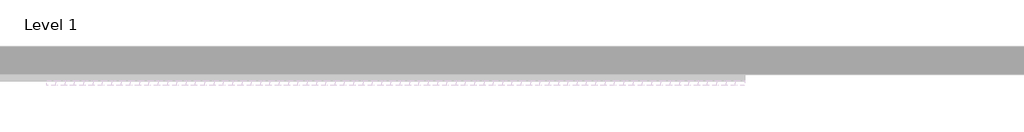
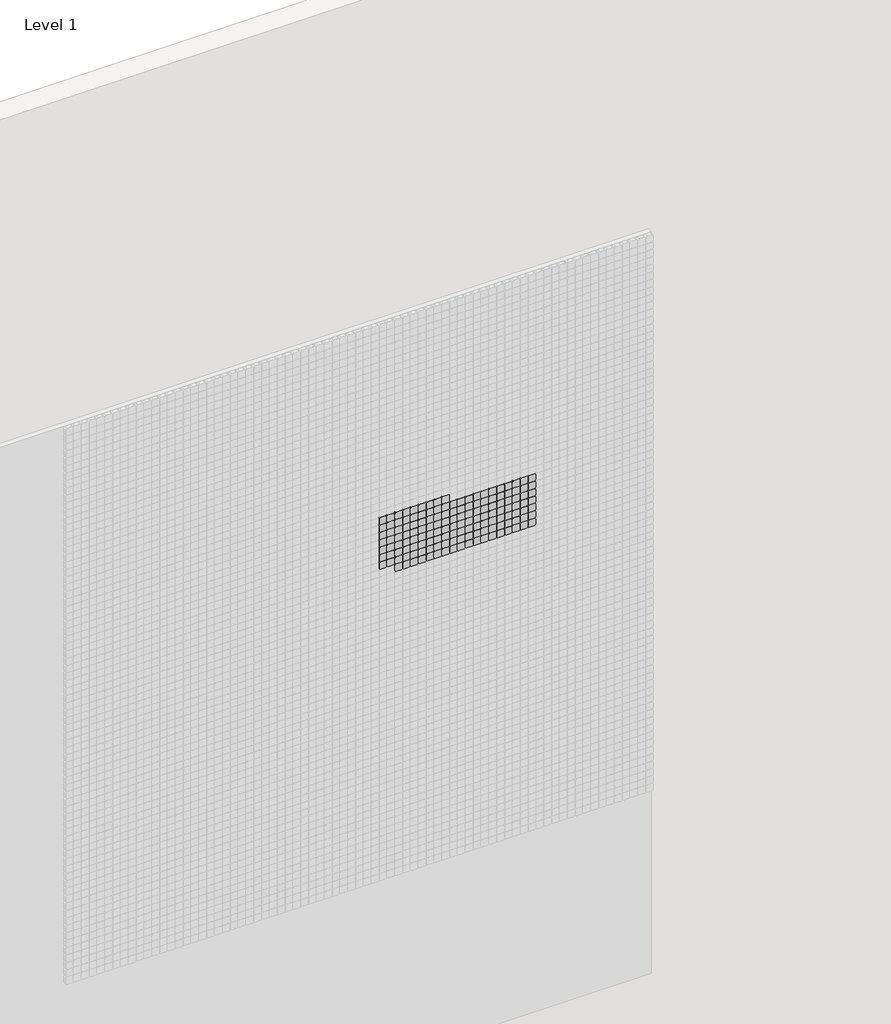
# One storey, part 52 of 71: 147 proxies.
"""IFC4 building model written with IfcOpenShell, lengths in millimetres."""

from ifc_helpers import new_model, si_unit, origin, place, context, project, spatial, transform, mapped, element, save
from components import generic_models_afde289c

model = new_model("IFC4")

# Units and contexts
model_context = context("Model", 3, world=origin())
ifc_project = project(units=[si_unit("LENGTHUNIT", "METRE", prefix="MILLI")], contexts=[model_context])

# Site, building, storey
site = spatial("IfcSite", under=ifc_project)
building = spatial("IfcBuilding", under=site)
storey = spatial("IfcBuildingStorey", under=building, Name="Level 1", Elevation=0.0)

# Proxies
placement = place(None, origin())
generic_models_shape = generic_models_afde289c(model_context)
element("IfcBuildingElementProxy", 1, Name="Pixel_M : Pixel_M", ObjectType="Pixel_M : Pixel_M", at=placement, inside=storey, context=model_context, shape_type="MappedRepresentation", body=[
    mapped(generic_models_shape, transform((8412.4280941, -75.0, 4666.3566215), x_axis=(1.0, 0.0, 0.0), y_axis=(0.0, 0.0, 1.0), z_axis=(0.0, -1.0, 0.0))),
])
element("IfcBuildingElementProxy", 2, Name="Pixel_M : Pixel_M", ObjectType="Pixel_M : Pixel_M", at=placement, inside=storey, context=model_context, shape_type="MappedRepresentation", body=[
    mapped(generic_models_shape, transform((8362.4280941, -75.0, 4666.3566215), x_axis=(1.0, 0.0, 0.0), y_axis=(0.0, 0.0, 1.0), z_axis=(0.0, -1.0, 0.0))),
])
element("IfcBuildingElementProxy", 3, Name="Pixel_M : Pixel_M", ObjectType="Pixel_M : Pixel_M", at=placement, inside=storey, context=model_context, shape_type="MappedRepresentation", body=[
    mapped(generic_models_shape, transform((8312.4280941, -75.0, 4666.3566215), x_axis=(1.0, 0.0, 0.0), y_axis=(0.0, 0.0, 1.0), z_axis=(0.0, -1.0, 0.0))),
])
element("IfcBuildingElementProxy", 4, Name="Pixel_M : Pixel_M", ObjectType="Pixel_M : Pixel_M", at=placement, inside=storey, context=model_context, shape_type="MappedRepresentation", body=[
    mapped(generic_models_shape, transform((8262.4280941, -75.0, 4666.3566215), x_axis=(1.0, 0.0, 0.0), y_axis=(0.0, 0.0, 1.0), z_axis=(0.0, -1.0, 0.0))),
])
element("IfcBuildingElementProxy", 5, Name="Pixel_M : Pixel_M", ObjectType="Pixel_M : Pixel_M", at=placement, inside=storey, context=model_context, shape_type="MappedRepresentation", body=[
    mapped(generic_models_shape, transform((8212.4280941, -75.0, 4666.3566215), x_axis=(1.0, 0.0, 0.0), y_axis=(0.0, 0.0, 1.0), z_axis=(0.0, -1.0, 0.0))),
])
element("IfcBuildingElementProxy", 6, Name="Pixel_M : Pixel_M", ObjectType="Pixel_M : Pixel_M", at=placement, inside=storey, context=model_context, shape_type="MappedRepresentation", body=[
    mapped(generic_models_shape, transform((8162.4280941, -75.0, 4666.3566215), x_axis=(1.0, 0.0, 0.0), y_axis=(0.0, 0.0, 1.0), z_axis=(0.0, -1.0, 0.0))),
])
element("IfcBuildingElementProxy", 7, Name="Pixel_M : Pixel_M", ObjectType="Pixel_M : Pixel_M", at=placement, inside=storey, context=model_context, shape_type="MappedRepresentation", body=[
    mapped(generic_models_shape, transform((8112.4280941, -75.0, 4666.3566215), x_axis=(1.0, 0.0, 0.0), y_axis=(0.0, 0.0, 1.0), z_axis=(0.0, -1.0, 0.0))),
])
element("IfcBuildingElementProxy", 8, Name="Pixel_M : Pixel_M", ObjectType="Pixel_M : Pixel_M", at=placement, inside=storey, context=model_context, shape_type="MappedRepresentation", body=[
    mapped(generic_models_shape, transform((8062.4280941, -75.0, 4666.3566215), x_axis=(1.0, 0.0, 0.0), y_axis=(0.0, 0.0, 1.0), z_axis=(0.0, -1.0, 0.0))),
])
element("IfcBuildingElementProxy", 9, Name="Pixel_M : Pixel_M", ObjectType="Pixel_M : Pixel_M", at=placement, inside=storey, context=model_context, shape_type="MappedRepresentation", body=[
    mapped(generic_models_shape, transform((8012.4280941, -75.0, 4666.3566215), x_axis=(1.0, 0.0, 0.0), y_axis=(0.0, 0.0, 1.0), z_axis=(0.0, -1.0, 0.0))),
])
element("IfcBuildingElementProxy", 10, Name="Pixel_M : Pixel_M", ObjectType="Pixel_M : Pixel_M", at=placement, inside=storey, context=model_context, shape_type="MappedRepresentation", body=[
    mapped(generic_models_shape, transform((8962.4280941, -75.0, 4616.3566215), x_axis=(1.0, 0.0, 0.0), y_axis=(0.0, 0.0, 1.0), z_axis=(0.0, -1.0, 0.0))),
])
element("IfcBuildingElementProxy", 11, Name="Pixel_M : Pixel_M", ObjectType="Pixel_M : Pixel_M", at=placement, inside=storey, context=model_context, shape_type="MappedRepresentation", body=[
    mapped(generic_models_shape, transform((8912.4280941, -75.0, 4616.3566215), x_axis=(1.0, 0.0, 0.0), y_axis=(0.0, 0.0, 1.0), z_axis=(0.0, -1.0, 0.0))),
])
element("IfcBuildingElementProxy", 12, Name="Pixel_M : Pixel_M", ObjectType="Pixel_M : Pixel_M", at=placement, inside=storey, context=model_context, shape_type="MappedRepresentation", body=[
    mapped(generic_models_shape, transform((8862.4280941, -75.0, 4616.3566215), x_axis=(1.0, 0.0, 0.0), y_axis=(0.0, 0.0, 1.0), z_axis=(0.0, -1.0, 0.0))),
])
element("IfcBuildingElementProxy", 13, Name="Pixel_M : Pixel_M", ObjectType="Pixel_M : Pixel_M", at=placement, inside=storey, context=model_context, shape_type="MappedRepresentation", body=[
    mapped(generic_models_shape, transform((8812.4280941, -75.0, 4616.3566215), x_axis=(1.0, 0.0, 0.0), y_axis=(0.0, 0.0, 1.0), z_axis=(0.0, -1.0, 0.0))),
])
element("IfcBuildingElementProxy", 14, Name="Pixel_M : Pixel_M", ObjectType="Pixel_M : Pixel_M", at=placement, inside=storey, context=model_context, shape_type="MappedRepresentation", body=[
    mapped(generic_models_shape, transform((8762.4280941, -75.0, 4616.3566215), x_axis=(1.0, 0.0, 0.0), y_axis=(0.0, 0.0, 1.0), z_axis=(0.0, -1.0, 0.0))),
])
element("IfcBuildingElementProxy", 15, Name="Pixel_M : Pixel_M", ObjectType="Pixel_M : Pixel_M", at=placement, inside=storey, context=model_context, shape_type="MappedRepresentation", body=[
    mapped(generic_models_shape, transform((8712.4280941, -75.0, 4616.3566215), x_axis=(1.0, 0.0, 0.0), y_axis=(0.0, 0.0, 1.0), z_axis=(0.0, -1.0, 0.0))),
])
element("IfcBuildingElementProxy", 16, Name="Pixel_M : Pixel_M", ObjectType="Pixel_M : Pixel_M", at=placement, inside=storey, context=model_context, shape_type="MappedRepresentation", body=[
    mapped(generic_models_shape, transform((8662.4280941, -75.0, 4616.3566215), x_axis=(1.0, 0.0, 0.0), y_axis=(0.0, 0.0, 1.0), z_axis=(0.0, -1.0, 0.0))),
])
element("IfcBuildingElementProxy", 17, Name="Pixel_M : Pixel_M", ObjectType="Pixel_M : Pixel_M", at=placement, inside=storey, context=model_context, shape_type="MappedRepresentation", body=[
    mapped(generic_models_shape, transform((8612.4280941, -75.0, 4616.3566215), x_axis=(1.0, 0.0, 0.0), y_axis=(0.0, 0.0, 1.0), z_axis=(0.0, -1.0, 0.0))),
])
element("IfcBuildingElementProxy", 18, Name="Pixel_M : Pixel_M", ObjectType="Pixel_M : Pixel_M", at=placement, inside=storey, context=model_context, shape_type="MappedRepresentation", body=[
    mapped(generic_models_shape, transform((8562.4280941, -75.0, 4616.3566215), x_axis=(1.0, 0.0, 0.0), y_axis=(0.0, 0.0, 1.0), z_axis=(0.0, -1.0, 0.0))),
])
element("IfcBuildingElementProxy", 19, Name="Pixel_M : Pixel_M", ObjectType="Pixel_M : Pixel_M", at=placement, inside=storey, context=model_context, shape_type="MappedRepresentation", body=[
    mapped(generic_models_shape, transform((8512.4280941, -75.0, 4616.3566215), x_axis=(1.0, 0.0, 0.0), y_axis=(0.0, 0.0, 1.0), z_axis=(0.0, -1.0, 0.0))),
])
element("IfcBuildingElementProxy", 20, Name="Pixel_M : Pixel_M", ObjectType="Pixel_M : Pixel_M", at=placement, inside=storey, context=model_context, shape_type="MappedRepresentation", body=[
    mapped(generic_models_shape, transform((8462.4280941, -75.0, 4616.3566215), x_axis=(1.0, 0.0, 0.0), y_axis=(0.0, 0.0, 1.0), z_axis=(0.0, -1.0, 0.0))),
])
element("IfcBuildingElementProxy", 21, Name="Pixel_M : Pixel_M", ObjectType="Pixel_M : Pixel_M", at=placement, inside=storey, context=model_context, shape_type="MappedRepresentation", body=[
    mapped(generic_models_shape, transform((8412.4280941, -75.0, 4616.3566215), x_axis=(1.0, 0.0, 0.0), y_axis=(0.0, 0.0, 1.0), z_axis=(0.0, -1.0, 0.0))),
])
element("IfcBuildingElementProxy", 22, Name="Pixel_M : Pixel_M", ObjectType="Pixel_M : Pixel_M", at=placement, inside=storey, context=model_context, shape_type="MappedRepresentation", body=[
    mapped(generic_models_shape, transform((8362.4280941, -75.0, 4616.3566215), x_axis=(1.0, 0.0, 0.0), y_axis=(0.0, 0.0, 1.0), z_axis=(0.0, -1.0, 0.0))),
])
element("IfcBuildingElementProxy", 23, Name="Pixel_M : Pixel_M", ObjectType="Pixel_M : Pixel_M", at=placement, inside=storey, context=model_context, shape_type="MappedRepresentation", body=[
    mapped(generic_models_shape, transform((8312.4280941, -75.0, 4616.3566215), x_axis=(1.0, 0.0, 0.0), y_axis=(0.0, 0.0, 1.0), z_axis=(0.0, -1.0, 0.0))),
])
element("IfcBuildingElementProxy", 24, Name="Pixel_M : Pixel_M", ObjectType="Pixel_M : Pixel_M", at=placement, inside=storey, context=model_context, shape_type="MappedRepresentation", body=[
    mapped(generic_models_shape, transform((8262.4280941, -75.0, 4616.3566215), x_axis=(1.0, 0.0, 0.0), y_axis=(0.0, 0.0, 1.0), z_axis=(0.0, -1.0, 0.0))),
])
element("IfcBuildingElementProxy", 25, Name="Pixel_M : Pixel_M", ObjectType="Pixel_M : Pixel_M", at=placement, inside=storey, context=model_context, shape_type="MappedRepresentation", body=[
    mapped(generic_models_shape, transform((8212.4280941, -75.0, 4616.3566215), x_axis=(1.0, 0.0, 0.0), y_axis=(0.0, 0.0, 1.0), z_axis=(0.0, -1.0, 0.0))),
])
element("IfcBuildingElementProxy", 26, Name="Pixel_M : Pixel_M", ObjectType="Pixel_M : Pixel_M", at=placement, inside=storey, context=model_context, shape_type="MappedRepresentation", body=[
    mapped(generic_models_shape, transform((8162.4280941, -75.0, 4616.3566215), x_axis=(1.0, 0.0, 0.0), y_axis=(0.0, 0.0, 1.0), z_axis=(0.0, -1.0, 0.0))),
])
element("IfcBuildingElementProxy", 27, Name="Pixel_M : Pixel_M", ObjectType="Pixel_M : Pixel_M", at=placement, inside=storey, context=model_context, shape_type="MappedRepresentation", body=[
    mapped(generic_models_shape, transform((8112.4280941, -75.0, 4616.3566215), x_axis=(1.0, 0.0, 0.0), y_axis=(0.0, 0.0, 1.0), z_axis=(0.0, -1.0, 0.0))),
])
element("IfcBuildingElementProxy", 28, Name="Pixel_M : Pixel_M", ObjectType="Pixel_M : Pixel_M", at=placement, inside=storey, context=model_context, shape_type="MappedRepresentation", body=[
    mapped(generic_models_shape, transform((8062.4280941, -75.0, 4616.3566215), x_axis=(1.0, 0.0, 0.0), y_axis=(0.0, 0.0, 1.0), z_axis=(0.0, -1.0, 0.0))),
])
element("IfcBuildingElementProxy", 29, Name="Pixel_M : Pixel_M", ObjectType="Pixel_M : Pixel_M", at=placement, inside=storey, context=model_context, shape_type="MappedRepresentation", body=[
    mapped(generic_models_shape, transform((8012.4280941, -75.0, 4616.3566215), x_axis=(1.0, 0.0, 0.0), y_axis=(0.0, 0.0, 1.0), z_axis=(0.0, -1.0, 0.0))),
])
element("IfcBuildingElementProxy", 30, Name="Pixel_M : Pixel_M", ObjectType="Pixel_M : Pixel_M", at=placement, inside=storey, context=model_context, shape_type="MappedRepresentation", body=[
    mapped(generic_models_shape, transform((8962.4280941, -75.0, 4566.3566215), x_axis=(1.0, 0.0, 0.0), y_axis=(0.0, 0.0, 1.0), z_axis=(0.0, -1.0, 0.0))),
])
element("IfcBuildingElementProxy", 31, Name="Pixel_M : Pixel_M", ObjectType="Pixel_M : Pixel_M", at=placement, inside=storey, context=model_context, shape_type="MappedRepresentation", body=[
    mapped(generic_models_shape, transform((8912.4280941, -75.0, 4566.3566215), x_axis=(1.0, 0.0, 0.0), y_axis=(0.0, 0.0, 1.0), z_axis=(0.0, -1.0, 0.0))),
])
element("IfcBuildingElementProxy", 32, Name="Pixel_M : Pixel_M", ObjectType="Pixel_M : Pixel_M", at=placement, inside=storey, context=model_context, shape_type="MappedRepresentation", body=[
    mapped(generic_models_shape, transform((8862.4280941, -75.0, 4566.3566215), x_axis=(1.0, 0.0, 0.0), y_axis=(0.0, 0.0, 1.0), z_axis=(0.0, -1.0, 0.0))),
])
element("IfcBuildingElementProxy", 33, Name="Pixel_M : Pixel_M", ObjectType="Pixel_M : Pixel_M", at=placement, inside=storey, context=model_context, shape_type="MappedRepresentation", body=[
    mapped(generic_models_shape, transform((8812.4280941, -75.0, 4566.3566215), x_axis=(1.0, 0.0, 0.0), y_axis=(0.0, 0.0, 1.0), z_axis=(0.0, -1.0, 0.0))),
])
element("IfcBuildingElementProxy", 34, Name="Pixel_M : Pixel_M", ObjectType="Pixel_M : Pixel_M", at=placement, inside=storey, context=model_context, shape_type="MappedRepresentation", body=[
    mapped(generic_models_shape, transform((8762.4280941, -75.0, 4566.3566215), x_axis=(1.0, 0.0, 0.0), y_axis=(0.0, 0.0, 1.0), z_axis=(0.0, -1.0, 0.0))),
])
element("IfcBuildingElementProxy", 35, Name="Pixel_M : Pixel_M", ObjectType="Pixel_M : Pixel_M", at=placement, inside=storey, context=model_context, shape_type="MappedRepresentation", body=[
    mapped(generic_models_shape, transform((8712.4280941, -75.0, 4566.3566215), x_axis=(1.0, 0.0, 0.0), y_axis=(0.0, 0.0, 1.0), z_axis=(0.0, -1.0, 0.0))),
])
element("IfcBuildingElementProxy", 36, Name="Pixel_M : Pixel_M", ObjectType="Pixel_M : Pixel_M", at=placement, inside=storey, context=model_context, shape_type="MappedRepresentation", body=[
    mapped(generic_models_shape, transform((8662.4280941, -75.0, 4566.3566215), x_axis=(1.0, 0.0, 0.0), y_axis=(0.0, 0.0, 1.0), z_axis=(0.0, -1.0, 0.0))),
])
element("IfcBuildingElementProxy", 37, Name="Pixel_M : Pixel_M", ObjectType="Pixel_M : Pixel_M", at=placement, inside=storey, context=model_context, shape_type="MappedRepresentation", body=[
    mapped(generic_models_shape, transform((8612.4280941, -75.0, 4566.3566215), x_axis=(1.0, 0.0, 0.0), y_axis=(0.0, 0.0, 1.0), z_axis=(0.0, -1.0, 0.0))),
])
element("IfcBuildingElementProxy", 38, Name="Pixel_M : Pixel_M", ObjectType="Pixel_M : Pixel_M", at=placement, inside=storey, context=model_context, shape_type="MappedRepresentation", body=[
    mapped(generic_models_shape, transform((8562.4280941, -75.0, 4566.3566215), x_axis=(1.0, 0.0, 0.0), y_axis=(0.0, 0.0, 1.0), z_axis=(0.0, -1.0, 0.0))),
])
element("IfcBuildingElementProxy", 39, Name="Pixel_M : Pixel_M", ObjectType="Pixel_M : Pixel_M", at=placement, inside=storey, context=model_context, shape_type="MappedRepresentation", body=[
    mapped(generic_models_shape, transform((8512.4280941, -75.0, 4566.3566215), x_axis=(1.0, 0.0, 0.0), y_axis=(0.0, 0.0, 1.0), z_axis=(0.0, -1.0, 0.0))),
])
element("IfcBuildingElementProxy", 40, Name="Pixel_M : Pixel_M", ObjectType="Pixel_M : Pixel_M", at=placement, inside=storey, context=model_context, shape_type="MappedRepresentation", body=[
    mapped(generic_models_shape, transform((8462.4280941, -75.0, 4566.3566215), x_axis=(1.0, 0.0, 0.0), y_axis=(0.0, 0.0, 1.0), z_axis=(0.0, -1.0, 0.0))),
])
element("IfcBuildingElementProxy", 41, Name="Pixel_M : Pixel_M", ObjectType="Pixel_M : Pixel_M", at=placement, inside=storey, context=model_context, shape_type="MappedRepresentation", body=[
    mapped(generic_models_shape, transform((8412.4280941, -75.0, 4566.3566215), x_axis=(1.0, 0.0, 0.0), y_axis=(0.0, 0.0, 1.0), z_axis=(0.0, -1.0, 0.0))),
])
element("IfcBuildingElementProxy", 42, Name="Pixel_M : Pixel_M", ObjectType="Pixel_M : Pixel_M", at=placement, inside=storey, context=model_context, shape_type="MappedRepresentation", body=[
    mapped(generic_models_shape, transform((8362.4280941, -75.0, 4566.3566215), x_axis=(1.0, 0.0, 0.0), y_axis=(0.0, 0.0, 1.0), z_axis=(0.0, -1.0, 0.0))),
])
element("IfcBuildingElementProxy", 43, Name="Pixel_M : Pixel_M", ObjectType="Pixel_M : Pixel_M", at=placement, inside=storey, context=model_context, shape_type="MappedRepresentation", body=[
    mapped(generic_models_shape, transform((8312.4280941, -75.0, 4566.3566215), x_axis=(1.0, 0.0, 0.0), y_axis=(0.0, 0.0, 1.0), z_axis=(0.0, -1.0, 0.0))),
])
element("IfcBuildingElementProxy", 44, Name="Pixel_M : Pixel_M", ObjectType="Pixel_M : Pixel_M", at=placement, inside=storey, context=model_context, shape_type="MappedRepresentation", body=[
    mapped(generic_models_shape, transform((8262.4280941, -75.0, 4566.3566215), x_axis=(1.0, 0.0, 0.0), y_axis=(0.0, 0.0, 1.0), z_axis=(0.0, -1.0, 0.0))),
])
element("IfcBuildingElementProxy", 45, Name="Pixel_M : Pixel_M", ObjectType="Pixel_M : Pixel_M", at=placement, inside=storey, context=model_context, shape_type="MappedRepresentation", body=[
    mapped(generic_models_shape, transform((8212.4280941, -75.0, 4566.3566215), x_axis=(1.0, 0.0, 0.0), y_axis=(0.0, 0.0, 1.0), z_axis=(0.0, -1.0, 0.0))),
])
element("IfcBuildingElementProxy", 46, Name="Pixel_M : Pixel_M", ObjectType="Pixel_M : Pixel_M", at=placement, inside=storey, context=model_context, shape_type="MappedRepresentation", body=[
    mapped(generic_models_shape, transform((8162.4280941, -75.0, 4566.3566215), x_axis=(1.0, 0.0, 0.0), y_axis=(0.0, 0.0, 1.0), z_axis=(0.0, -1.0, 0.0))),
])
element("IfcBuildingElementProxy", 47, Name="Pixel_M : Pixel_M", ObjectType="Pixel_M : Pixel_M", at=placement, inside=storey, context=model_context, shape_type="MappedRepresentation", body=[
    mapped(generic_models_shape, transform((8112.4280941, -75.0, 4566.3566215), x_axis=(1.0, 0.0, 0.0), y_axis=(0.0, 0.0, 1.0), z_axis=(0.0, -1.0, 0.0))),
])
element("IfcBuildingElementProxy", 48, Name="Pixel_M : Pixel_M", ObjectType="Pixel_M : Pixel_M", at=placement, inside=storey, context=model_context, shape_type="MappedRepresentation", body=[
    mapped(generic_models_shape, transform((8062.4280941, -75.0, 4566.3566215), x_axis=(1.0, 0.0, 0.0), y_axis=(0.0, 0.0, 1.0), z_axis=(0.0, -1.0, 0.0))),
])
element("IfcBuildingElementProxy", 49, Name="Pixel_M : Pixel_M", ObjectType="Pixel_M : Pixel_M", at=placement, inside=storey, context=model_context, shape_type="MappedRepresentation", body=[
    mapped(generic_models_shape, transform((8012.4280941, -75.0, 4566.3566215), x_axis=(1.0, 0.0, 0.0), y_axis=(0.0, 0.0, 1.0), z_axis=(0.0, -1.0, 0.0))),
])
element("IfcBuildingElementProxy", 50, Name="Pixel_M : Pixel_M", ObjectType="Pixel_M : Pixel_M", at=placement, inside=storey, context=model_context, shape_type="MappedRepresentation", body=[
    mapped(generic_models_shape, transform((8962.4280941, -75.0, 4516.3566215), x_axis=(1.0, 0.0, 0.0), y_axis=(0.0, 0.0, 1.0), z_axis=(0.0, -1.0, 0.0))),
])
element("IfcBuildingElementProxy", 51, Name="Pixel_M : Pixel_M", ObjectType="Pixel_M : Pixel_M", at=placement, inside=storey, context=model_context, shape_type="MappedRepresentation", body=[
    mapped(generic_models_shape, transform((8912.4280941, -75.0, 4516.3566215), x_axis=(1.0, 0.0, 0.0), y_axis=(0.0, 0.0, 1.0), z_axis=(0.0, -1.0, 0.0))),
])
element("IfcBuildingElementProxy", 52, Name="Pixel_M : Pixel_M", ObjectType="Pixel_M : Pixel_M", at=placement, inside=storey, context=model_context, shape_type="MappedRepresentation", body=[
    mapped(generic_models_shape, transform((8862.4280941, -75.0, 4516.3566215), x_axis=(1.0, 0.0, 0.0), y_axis=(0.0, 0.0, 1.0), z_axis=(0.0, -1.0, 0.0))),
])
element("IfcBuildingElementProxy", 53, Name="Pixel_M : Pixel_M", ObjectType="Pixel_M : Pixel_M", at=placement, inside=storey, context=model_context, shape_type="MappedRepresentation", body=[
    mapped(generic_models_shape, transform((8812.4280941, -75.0, 4516.3566215), x_axis=(1.0, 0.0, 0.0), y_axis=(0.0, 0.0, 1.0), z_axis=(0.0, -1.0, 0.0))),
])
element("IfcBuildingElementProxy", 54, Name="Pixel_M : Pixel_M", ObjectType="Pixel_M : Pixel_M", at=placement, inside=storey, context=model_context, shape_type="MappedRepresentation", body=[
    mapped(generic_models_shape, transform((8762.4280941, -75.0, 4516.3566215), x_axis=(1.0, 0.0, 0.0), y_axis=(0.0, 0.0, 1.0), z_axis=(0.0, -1.0, 0.0))),
])
element("IfcBuildingElementProxy", 55, Name="Pixel_M : Pixel_M", ObjectType="Pixel_M : Pixel_M", at=placement, inside=storey, context=model_context, shape_type="MappedRepresentation", body=[
    mapped(generic_models_shape, transform((8712.4280941, -75.0, 4516.3566215), x_axis=(1.0, 0.0, 0.0), y_axis=(0.0, 0.0, 1.0), z_axis=(0.0, -1.0, 0.0))),
])
element("IfcBuildingElementProxy", 56, Name="Pixel_M : Pixel_M", ObjectType="Pixel_M : Pixel_M", at=placement, inside=storey, context=model_context, shape_type="MappedRepresentation", body=[
    mapped(generic_models_shape, transform((8662.4280941, -75.0, 4516.3566215), x_axis=(1.0, 0.0, 0.0), y_axis=(0.0, 0.0, 1.0), z_axis=(0.0, -1.0, 0.0))),
])
element("IfcBuildingElementProxy", 57, Name="Pixel_M : Pixel_M", ObjectType="Pixel_M : Pixel_M", at=placement, inside=storey, context=model_context, shape_type="MappedRepresentation", body=[
    mapped(generic_models_shape, transform((8612.4280941, -75.0, 4516.3566215), x_axis=(1.0, 0.0, 0.0), y_axis=(0.0, 0.0, 1.0), z_axis=(0.0, -1.0, 0.0))),
])
element("IfcBuildingElementProxy", 58, Name="Pixel_M : Pixel_M", ObjectType="Pixel_M : Pixel_M", at=placement, inside=storey, context=model_context, shape_type="MappedRepresentation", body=[
    mapped(generic_models_shape, transform((8562.4280941, -75.0, 4516.3566215), x_axis=(1.0, 0.0, 0.0), y_axis=(0.0, 0.0, 1.0), z_axis=(0.0, -1.0, 0.0))),
])
element("IfcBuildingElementProxy", 59, Name="Pixel_M : Pixel_M", ObjectType="Pixel_M : Pixel_M", at=placement, inside=storey, context=model_context, shape_type="MappedRepresentation", body=[
    mapped(generic_models_shape, transform((8512.4280941, -75.0, 4516.3566215), x_axis=(1.0, 0.0, 0.0), y_axis=(0.0, 0.0, 1.0), z_axis=(0.0, -1.0, 0.0))),
])
element("IfcBuildingElementProxy", 60, Name="Pixel_M : Pixel_M", ObjectType="Pixel_M : Pixel_M", at=placement, inside=storey, context=model_context, shape_type="MappedRepresentation", body=[
    mapped(generic_models_shape, transform((8462.4280941, -75.0, 4516.3566215), x_axis=(1.0, 0.0, 0.0), y_axis=(0.0, 0.0, 1.0), z_axis=(0.0, -1.0, 0.0))),
])
element("IfcBuildingElementProxy", 61, Name="Pixel_M : Pixel_M", ObjectType="Pixel_M : Pixel_M", at=placement, inside=storey, context=model_context, shape_type="MappedRepresentation", body=[
    mapped(generic_models_shape, transform((8412.4280941, -75.0, 4516.3566215), x_axis=(1.0, 0.0, 0.0), y_axis=(0.0, 0.0, 1.0), z_axis=(0.0, -1.0, 0.0))),
])
element("IfcBuildingElementProxy", 62, Name="Pixel_M : Pixel_M", ObjectType="Pixel_M : Pixel_M", at=placement, inside=storey, context=model_context, shape_type="MappedRepresentation", body=[
    mapped(generic_models_shape, transform((8362.4280941, -75.0, 4516.3566215), x_axis=(1.0, 0.0, 0.0), y_axis=(0.0, 0.0, 1.0), z_axis=(0.0, -1.0, 0.0))),
])
element("IfcBuildingElementProxy", 63, Name="Pixel_M : Pixel_M", ObjectType="Pixel_M : Pixel_M", at=placement, inside=storey, context=model_context, shape_type="MappedRepresentation", body=[
    mapped(generic_models_shape, transform((8312.4280941, -75.0, 4516.3566215), x_axis=(1.0, 0.0, 0.0), y_axis=(0.0, 0.0, 1.0), z_axis=(0.0, -1.0, 0.0))),
])
element("IfcBuildingElementProxy", 64, Name="Pixel_M : Pixel_M", ObjectType="Pixel_M : Pixel_M", at=placement, inside=storey, context=model_context, shape_type="MappedRepresentation", body=[
    mapped(generic_models_shape, transform((8262.4280941, -75.0, 4516.3566215), x_axis=(1.0, 0.0, 0.0), y_axis=(0.0, 0.0, 1.0), z_axis=(0.0, -1.0, 0.0))),
])
element("IfcBuildingElementProxy", 65, Name="Pixel_M : Pixel_M", ObjectType="Pixel_M : Pixel_M", at=placement, inside=storey, context=model_context, shape_type="MappedRepresentation", body=[
    mapped(generic_models_shape, transform((8212.4280941, -75.0, 4516.3566215), x_axis=(1.0, 0.0, 0.0), y_axis=(0.0, 0.0, 1.0), z_axis=(0.0, -1.0, 0.0))),
])
element("IfcBuildingElementProxy", 66, Name="Pixel_M : Pixel_M", ObjectType="Pixel_M : Pixel_M", at=placement, inside=storey, context=model_context, shape_type="MappedRepresentation", body=[
    mapped(generic_models_shape, transform((8162.4280941, -75.0, 4516.3566215), x_axis=(1.0, 0.0, 0.0), y_axis=(0.0, 0.0, 1.0), z_axis=(0.0, -1.0, 0.0))),
])
element("IfcBuildingElementProxy", 67, Name="Pixel_M : Pixel_M", ObjectType="Pixel_M : Pixel_M", at=placement, inside=storey, context=model_context, shape_type="MappedRepresentation", body=[
    mapped(generic_models_shape, transform((8112.4280941, -75.0, 4516.3566215), x_axis=(1.0, 0.0, 0.0), y_axis=(0.0, 0.0, 1.0), z_axis=(0.0, -1.0, 0.0))),
])
element("IfcBuildingElementProxy", 68, Name="Pixel_M : Pixel_M", ObjectType="Pixel_M : Pixel_M", at=placement, inside=storey, context=model_context, shape_type="MappedRepresentation", body=[
    mapped(generic_models_shape, transform((8062.4280941, -75.0, 4516.3566215), x_axis=(1.0, 0.0, 0.0), y_axis=(0.0, 0.0, 1.0), z_axis=(0.0, -1.0, 0.0))),
])
element("IfcBuildingElementProxy", 69, Name="Pixel_M : Pixel_M", ObjectType="Pixel_M : Pixel_M", at=placement, inside=storey, context=model_context, shape_type="MappedRepresentation", body=[
    mapped(generic_models_shape, transform((8012.4280941, -75.0, 4516.3566215), x_axis=(1.0, 0.0, 0.0), y_axis=(0.0, 0.0, 1.0), z_axis=(0.0, -1.0, 0.0))),
])
element("IfcBuildingElementProxy", 70, Name="Pixel_M : Pixel_M", ObjectType="Pixel_M : Pixel_M", at=placement, inside=storey, context=model_context, shape_type="MappedRepresentation", body=[
    mapped(generic_models_shape, transform((8962.4280941, -75.0, 4466.3566215), x_axis=(1.0, 0.0, 0.0), y_axis=(0.0, 0.0, 1.0), z_axis=(0.0, -1.0, 0.0))),
])
element("IfcBuildingElementProxy", 71, Name="Pixel_M : Pixel_M", ObjectType="Pixel_M : Pixel_M", at=placement, inside=storey, context=model_context, shape_type="MappedRepresentation", body=[
    mapped(generic_models_shape, transform((8912.4280941, -75.0, 4466.3566215), x_axis=(1.0, 0.0, 0.0), y_axis=(0.0, 0.0, 1.0), z_axis=(0.0, -1.0, 0.0))),
])
element("IfcBuildingElementProxy", 72, Name="Pixel_M : Pixel_M", ObjectType="Pixel_M : Pixel_M", at=placement, inside=storey, context=model_context, shape_type="MappedRepresentation", body=[
    mapped(generic_models_shape, transform((8862.4280941, -75.0, 4466.3566215), x_axis=(1.0, 0.0, 0.0), y_axis=(0.0, 0.0, 1.0), z_axis=(0.0, -1.0, 0.0))),
])
element("IfcBuildingElementProxy", 73, Name="Pixel_M : Pixel_M", ObjectType="Pixel_M : Pixel_M", at=placement, inside=storey, context=model_context, shape_type="MappedRepresentation", body=[
    mapped(generic_models_shape, transform((8812.4280941, -75.0, 4466.3566215), x_axis=(1.0, 0.0, 0.0), y_axis=(0.0, 0.0, 1.0), z_axis=(0.0, -1.0, 0.0))),
])
element("IfcBuildingElementProxy", 74, Name="Pixel_M : Pixel_M", ObjectType="Pixel_M : Pixel_M", at=placement, inside=storey, context=model_context, shape_type="MappedRepresentation", body=[
    mapped(generic_models_shape, transform((8762.4280941, -75.0, 4466.3566215), x_axis=(1.0, 0.0, 0.0), y_axis=(0.0, 0.0, 1.0), z_axis=(0.0, -1.0, 0.0))),
])
element("IfcBuildingElementProxy", 75, Name="Pixel_M : Pixel_M", ObjectType="Pixel_M : Pixel_M", at=placement, inside=storey, context=model_context, shape_type="MappedRepresentation", body=[
    mapped(generic_models_shape, transform((8712.4280941, -75.0, 4466.3566215), x_axis=(1.0, 0.0, 0.0), y_axis=(0.0, 0.0, 1.0), z_axis=(0.0, -1.0, 0.0))),
])
element("IfcBuildingElementProxy", 76, Name="Pixel_M : Pixel_M", ObjectType="Pixel_M : Pixel_M", at=placement, inside=storey, context=model_context, shape_type="MappedRepresentation", body=[
    mapped(generic_models_shape, transform((8662.4280941, -75.0, 4466.3566215), x_axis=(1.0, 0.0, 0.0), y_axis=(0.0, 0.0, 1.0), z_axis=(0.0, -1.0, 0.0))),
])
element("IfcBuildingElementProxy", 77, Name="Pixel_M : Pixel_M", ObjectType="Pixel_M : Pixel_M", at=placement, inside=storey, context=model_context, shape_type="MappedRepresentation", body=[
    mapped(generic_models_shape, transform((8612.4280941, -75.0, 4466.3566215), x_axis=(1.0, 0.0, 0.0), y_axis=(0.0, 0.0, 1.0), z_axis=(0.0, -1.0, 0.0))),
])
element("IfcBuildingElementProxy", 78, Name="Pixel_M : Pixel_M", ObjectType="Pixel_M : Pixel_M", at=placement, inside=storey, context=model_context, shape_type="MappedRepresentation", body=[
    mapped(generic_models_shape, transform((8562.4280941, -75.0, 4466.3566215), x_axis=(1.0, 0.0, 0.0), y_axis=(0.0, 0.0, 1.0), z_axis=(0.0, -1.0, 0.0))),
])
element("IfcBuildingElementProxy", 79, Name="Pixel_M : Pixel_M", ObjectType="Pixel_M : Pixel_M", at=placement, inside=storey, context=model_context, shape_type="MappedRepresentation", body=[
    mapped(generic_models_shape, transform((8512.4280941, -75.0, 4466.3566215), x_axis=(1.0, 0.0, 0.0), y_axis=(0.0, 0.0, 1.0), z_axis=(0.0, -1.0, 0.0))),
])
element("IfcBuildingElementProxy", 80, Name="Pixel_M : Pixel_M", ObjectType="Pixel_M : Pixel_M", at=placement, inside=storey, context=model_context, shape_type="MappedRepresentation", body=[
    mapped(generic_models_shape, transform((8462.4280941, -75.0, 4466.3566215), x_axis=(1.0, 0.0, 0.0), y_axis=(0.0, 0.0, 1.0), z_axis=(0.0, -1.0, 0.0))),
])
element("IfcBuildingElementProxy", 81, Name="Pixel_M : Pixel_M", ObjectType="Pixel_M : Pixel_M", at=placement, inside=storey, context=model_context, shape_type="MappedRepresentation", body=[
    mapped(generic_models_shape, transform((8412.4280941, -75.0, 4466.3566215), x_axis=(1.0, 0.0, 0.0), y_axis=(0.0, 0.0, 1.0), z_axis=(0.0, -1.0, 0.0))),
])
element("IfcBuildingElementProxy", 82, Name="Pixel_M : Pixel_M", ObjectType="Pixel_M : Pixel_M", at=placement, inside=storey, context=model_context, shape_type="MappedRepresentation", body=[
    mapped(generic_models_shape, transform((8362.4280941, -75.0, 4466.3566215), x_axis=(1.0, 0.0, 0.0), y_axis=(0.0, 0.0, 1.0), z_axis=(0.0, -1.0, 0.0))),
])
element("IfcBuildingElementProxy", 83, Name="Pixel_M : Pixel_M", ObjectType="Pixel_M : Pixel_M", at=placement, inside=storey, context=model_context, shape_type="MappedRepresentation", body=[
    mapped(generic_models_shape, transform((8312.4280941, -75.0, 4466.3566215), x_axis=(1.0, 0.0, 0.0), y_axis=(0.0, 0.0, 1.0), z_axis=(0.0, -1.0, 0.0))),
])
element("IfcBuildingElementProxy", 84, Name="Pixel_M : Pixel_M", ObjectType="Pixel_M : Pixel_M", at=placement, inside=storey, context=model_context, shape_type="MappedRepresentation", body=[
    mapped(generic_models_shape, transform((8262.4280941, -75.0, 4466.3566215), x_axis=(1.0, 0.0, 0.0), y_axis=(0.0, 0.0, 1.0), z_axis=(0.0, -1.0, 0.0))),
])
element("IfcBuildingElementProxy", 85, Name="Pixel_M : Pixel_M", ObjectType="Pixel_M : Pixel_M", at=placement, inside=storey, context=model_context, shape_type="MappedRepresentation", body=[
    mapped(generic_models_shape, transform((8212.4280941, -75.0, 4466.3566215), x_axis=(1.0, 0.0, 0.0), y_axis=(0.0, 0.0, 1.0), z_axis=(0.0, -1.0, 0.0))),
])
element("IfcBuildingElementProxy", 86, Name="Pixel_M : Pixel_M", ObjectType="Pixel_M : Pixel_M", at=placement, inside=storey, context=model_context, shape_type="MappedRepresentation", body=[
    mapped(generic_models_shape, transform((8162.4280941, -75.0, 4466.3566215), x_axis=(1.0, 0.0, 0.0), y_axis=(0.0, 0.0, 1.0), z_axis=(0.0, -1.0, 0.0))),
])
element("IfcBuildingElementProxy", 87, Name="Pixel_M : Pixel_M", ObjectType="Pixel_M : Pixel_M", at=placement, inside=storey, context=model_context, shape_type="MappedRepresentation", body=[
    mapped(generic_models_shape, transform((8112.4280941, -75.0, 4466.3566215), x_axis=(1.0, 0.0, 0.0), y_axis=(0.0, 0.0, 1.0), z_axis=(0.0, -1.0, 0.0))),
])
element("IfcBuildingElementProxy", 88, Name="Pixel_M : Pixel_M", ObjectType="Pixel_M : Pixel_M", at=placement, inside=storey, context=model_context, shape_type="MappedRepresentation", body=[
    mapped(generic_models_shape, transform((8062.4280941, -75.0, 4466.3566215), x_axis=(1.0, 0.0, 0.0), y_axis=(0.0, 0.0, 1.0), z_axis=(0.0, -1.0, 0.0))),
])
element("IfcBuildingElementProxy", 89, Name="Pixel_M : Pixel_M", ObjectType="Pixel_M : Pixel_M", at=placement, inside=storey, context=model_context, shape_type="MappedRepresentation", body=[
    mapped(generic_models_shape, transform((8012.4280941, -75.0, 4466.3566215), x_axis=(1.0, 0.0, 0.0), y_axis=(0.0, 0.0, 1.0), z_axis=(0.0, -1.0, 0.0))),
])
element("IfcBuildingElementProxy", 90, Name="Pixel_M : Pixel_M", ObjectType="Pixel_M : Pixel_M", at=placement, inside=storey, context=model_context, shape_type="MappedRepresentation", body=[
    mapped(generic_models_shape, transform((8962.4280941, -75.0, 4416.3566215), x_axis=(1.0, 0.0, 0.0), y_axis=(0.0, 0.0, 1.0), z_axis=(0.0, -1.0, 0.0))),
])
element("IfcBuildingElementProxy", 91, Name="Pixel_M : Pixel_M", ObjectType="Pixel_M : Pixel_M", at=placement, inside=storey, context=model_context, shape_type="MappedRepresentation", body=[
    mapped(generic_models_shape, transform((8912.4280941, -75.0, 4416.3566215), x_axis=(1.0, 0.0, 0.0), y_axis=(0.0, 0.0, 1.0), z_axis=(0.0, -1.0, 0.0))),
])
element("IfcBuildingElementProxy", 92, Name="Pixel_M : Pixel_M", ObjectType="Pixel_M : Pixel_M", at=placement, inside=storey, context=model_context, shape_type="MappedRepresentation", body=[
    mapped(generic_models_shape, transform((8862.4280941, -75.0, 4416.3566215), x_axis=(1.0, 0.0, 0.0), y_axis=(0.0, 0.0, 1.0), z_axis=(0.0, -1.0, 0.0))),
])
element("IfcBuildingElementProxy", 93, Name="Pixel_M : Pixel_M", ObjectType="Pixel_M : Pixel_M", at=placement, inside=storey, context=model_context, shape_type="MappedRepresentation", body=[
    mapped(generic_models_shape, transform((8812.4280941, -75.0, 4416.3566215), x_axis=(1.0, 0.0, 0.0), y_axis=(0.0, 0.0, 1.0), z_axis=(0.0, -1.0, 0.0))),
])
element("IfcBuildingElementProxy", 94, Name="Pixel_M : Pixel_M", ObjectType="Pixel_M : Pixel_M", at=placement, inside=storey, context=model_context, shape_type="MappedRepresentation", body=[
    mapped(generic_models_shape, transform((8762.4280941, -75.0, 4416.3566215), x_axis=(1.0, 0.0, 0.0), y_axis=(0.0, 0.0, 1.0), z_axis=(0.0, -1.0, 0.0))),
])
element("IfcBuildingElementProxy", 95, Name="Pixel_M : Pixel_M", ObjectType="Pixel_M : Pixel_M", at=placement, inside=storey, context=model_context, shape_type="MappedRepresentation", body=[
    mapped(generic_models_shape, transform((8712.4280941, -75.0, 4416.3566215), x_axis=(1.0, 0.0, 0.0), y_axis=(0.0, 0.0, 1.0), z_axis=(0.0, -1.0, 0.0))),
])
element("IfcBuildingElementProxy", 96, Name="Pixel_M : Pixel_M", ObjectType="Pixel_M : Pixel_M", at=placement, inside=storey, context=model_context, shape_type="MappedRepresentation", body=[
    mapped(generic_models_shape, transform((8662.4280941, -75.0, 4416.3566215), x_axis=(1.0, 0.0, 0.0), y_axis=(0.0, 0.0, 1.0), z_axis=(0.0, -1.0, 0.0))),
])
element("IfcBuildingElementProxy", 97, Name="Pixel_M : Pixel_M", ObjectType="Pixel_M : Pixel_M", at=placement, inside=storey, context=model_context, shape_type="MappedRepresentation", body=[
    mapped(generic_models_shape, transform((8612.4280941, -75.0, 4416.3566215), x_axis=(1.0, 0.0, 0.0), y_axis=(0.0, 0.0, 1.0), z_axis=(0.0, -1.0, 0.0))),
])
element("IfcBuildingElementProxy", 98, Name="Pixel_M : Pixel_M", ObjectType="Pixel_M : Pixel_M", at=placement, inside=storey, context=model_context, shape_type="MappedRepresentation", body=[
    mapped(generic_models_shape, transform((8562.4280941, -75.0, 4416.3566215), x_axis=(1.0, 0.0, 0.0), y_axis=(0.0, 0.0, 1.0), z_axis=(0.0, -1.0, 0.0))),
])
element("IfcBuildingElementProxy", 99, Name="Pixel_M : Pixel_M", ObjectType="Pixel_M : Pixel_M", at=placement, inside=storey, context=model_context, shape_type="MappedRepresentation", body=[
    mapped(generic_models_shape, transform((8512.4280941, -75.0, 4416.3566215), x_axis=(1.0, 0.0, 0.0), y_axis=(0.0, 0.0, 1.0), z_axis=(0.0, -1.0, 0.0))),
])
element("IfcBuildingElementProxy", 100, Name="Pixel_M : Pixel_M", ObjectType="Pixel_M : Pixel_M", at=placement, inside=storey, context=model_context, shape_type="MappedRepresentation", body=[
    mapped(generic_models_shape, transform((8462.4280941, -75.0, 4416.3566215), x_axis=(1.0, 0.0, 0.0), y_axis=(0.0, 0.0, 1.0), z_axis=(0.0, -1.0, 0.0))),
])
element("IfcBuildingElementProxy", 101, Name="Pixel_M : Pixel_M", ObjectType="Pixel_M : Pixel_M", at=placement, inside=storey, context=model_context, shape_type="MappedRepresentation", body=[
    mapped(generic_models_shape, transform((8412.4280941, -75.0, 4416.3566215), x_axis=(1.0, 0.0, 0.0), y_axis=(0.0, 0.0, 1.0), z_axis=(0.0, -1.0, 0.0))),
])
element("IfcBuildingElementProxy", 102, Name="Pixel_M : Pixel_M", ObjectType="Pixel_M : Pixel_M", at=placement, inside=storey, context=model_context, shape_type="MappedRepresentation", body=[
    mapped(generic_models_shape, transform((8362.4280941, -75.0, 4416.3566215), x_axis=(1.0, 0.0, 0.0), y_axis=(0.0, 0.0, 1.0), z_axis=(0.0, -1.0, 0.0))),
])
element("IfcBuildingElementProxy", 103, Name="Pixel_M : Pixel_M", ObjectType="Pixel_M : Pixel_M", at=placement, inside=storey, context=model_context, shape_type="MappedRepresentation", body=[
    mapped(generic_models_shape, transform((8312.4280941, -75.0, 4416.3566215), x_axis=(1.0, 0.0, 0.0), y_axis=(0.0, 0.0, 1.0), z_axis=(0.0, -1.0, 0.0))),
])
element("IfcBuildingElementProxy", 104, Name="Pixel_M : Pixel_M", ObjectType="Pixel_M : Pixel_M", at=placement, inside=storey, context=model_context, shape_type="MappedRepresentation", body=[
    mapped(generic_models_shape, transform((8262.4280941, -75.0, 4416.3566215), x_axis=(1.0, 0.0, 0.0), y_axis=(0.0, 0.0, 1.0), z_axis=(0.0, -1.0, 0.0))),
])
element("IfcBuildingElementProxy", 105, Name="Pixel_M : Pixel_M", ObjectType="Pixel_M : Pixel_M", at=placement, inside=storey, context=model_context, shape_type="MappedRepresentation", body=[
    mapped(generic_models_shape, transform((8212.4280941, -75.0, 4416.3566215), x_axis=(1.0, 0.0, 0.0), y_axis=(0.0, 0.0, 1.0), z_axis=(0.0, -1.0, 0.0))),
])
element("IfcBuildingElementProxy", 106, Name="Pixel_M : Pixel_M", ObjectType="Pixel_M : Pixel_M", at=placement, inside=storey, context=model_context, shape_type="MappedRepresentation", body=[
    mapped(generic_models_shape, transform((8162.4280941, -75.0, 4416.3566215), x_axis=(1.0, 0.0, 0.0), y_axis=(0.0, 0.0, 1.0), z_axis=(0.0, -1.0, 0.0))),
])
element("IfcBuildingElementProxy", 107, Name="Pixel_M : Pixel_M", ObjectType="Pixel_M : Pixel_M", at=placement, inside=storey, context=model_context, shape_type="MappedRepresentation", body=[
    mapped(generic_models_shape, transform((8112.4280941, -75.0, 4416.3566215), x_axis=(1.0, 0.0, 0.0), y_axis=(0.0, 0.0, 1.0), z_axis=(0.0, -1.0, 0.0))),
])
element("IfcBuildingElementProxy", 108, Name="Pixel_M : Pixel_M", ObjectType="Pixel_M : Pixel_M", at=placement, inside=storey, context=model_context, shape_type="MappedRepresentation", body=[
    mapped(generic_models_shape, transform((8062.4280941, -75.0, 4416.3566215), x_axis=(1.0, 0.0, 0.0), y_axis=(0.0, 0.0, 1.0), z_axis=(0.0, -1.0, 0.0))),
])
element("IfcBuildingElementProxy", 109, Name="Pixel_M : Pixel_M", ObjectType="Pixel_M : Pixel_M", at=placement, inside=storey, context=model_context, shape_type="MappedRepresentation", body=[
    mapped(generic_models_shape, transform((8012.4280941, -75.0, 4416.3566215), x_axis=(1.0, 0.0, 0.0), y_axis=(0.0, 0.0, 1.0), z_axis=(0.0, -1.0, 0.0))),
])
element("IfcBuildingElementProxy", 110, Name="Pixel_M : Pixel_M", ObjectType="Pixel_M : Pixel_M", at=placement, inside=storey, context=model_context, shape_type="MappedRepresentation", body=[
    mapped(generic_models_shape, transform((8962.4280941, -75.0, 4366.3566215), x_axis=(1.0, 0.0, 0.0), y_axis=(0.0, 0.0, 1.0), z_axis=(0.0, -1.0, 0.0))),
])
element("IfcBuildingElementProxy", 111, Name="Pixel_M : Pixel_M", ObjectType="Pixel_M : Pixel_M", at=placement, inside=storey, context=model_context, shape_type="MappedRepresentation", body=[
    mapped(generic_models_shape, transform((8912.4280941, -75.0, 4366.3566215), x_axis=(1.0, 0.0, 0.0), y_axis=(0.0, 0.0, 1.0), z_axis=(0.0, -1.0, 0.0))),
])
element("IfcBuildingElementProxy", 112, Name="Pixel_M : Pixel_M", ObjectType="Pixel_M : Pixel_M", at=placement, inside=storey, context=model_context, shape_type="MappedRepresentation", body=[
    mapped(generic_models_shape, transform((8862.4280941, -75.0, 4366.3566215), x_axis=(1.0, 0.0, 0.0), y_axis=(0.0, 0.0, 1.0), z_axis=(0.0, -1.0, 0.0))),
])
element("IfcBuildingElementProxy", 113, Name="Pixel_M : Pixel_M", ObjectType="Pixel_M : Pixel_M", at=placement, inside=storey, context=model_context, shape_type="MappedRepresentation", body=[
    mapped(generic_models_shape, transform((8812.4280941, -75.0, 4366.3566215), x_axis=(1.0, 0.0, 0.0), y_axis=(0.0, 0.0, 1.0), z_axis=(0.0, -1.0, 0.0))),
])
element("IfcBuildingElementProxy", 114, Name="Pixel_M : Pixel_M", ObjectType="Pixel_M : Pixel_M", at=placement, inside=storey, context=model_context, shape_type="MappedRepresentation", body=[
    mapped(generic_models_shape, transform((8762.4280941, -75.0, 4366.3566215), x_axis=(1.0, 0.0, 0.0), y_axis=(0.0, 0.0, 1.0), z_axis=(0.0, -1.0, 0.0))),
])
element("IfcBuildingElementProxy", 115, Name="Pixel_M : Pixel_M", ObjectType="Pixel_M : Pixel_M", at=placement, inside=storey, context=model_context, shape_type="MappedRepresentation", body=[
    mapped(generic_models_shape, transform((8712.4280941, -75.0, 4366.3566215), x_axis=(1.0, 0.0, 0.0), y_axis=(0.0, 0.0, 1.0), z_axis=(0.0, -1.0, 0.0))),
])
element("IfcBuildingElementProxy", 116, Name="Pixel_M : Pixel_M", ObjectType="Pixel_M : Pixel_M", at=placement, inside=storey, context=model_context, shape_type="MappedRepresentation", body=[
    mapped(generic_models_shape, transform((8662.4280941, -75.0, 4366.3566215), x_axis=(1.0, 0.0, 0.0), y_axis=(0.0, 0.0, 1.0), z_axis=(0.0, -1.0, 0.0))),
])
element("IfcBuildingElementProxy", 117, Name="Pixel_M : Pixel_M", ObjectType="Pixel_M : Pixel_M", at=placement, inside=storey, context=model_context, shape_type="MappedRepresentation", body=[
    mapped(generic_models_shape, transform((8612.4280941, -75.0, 4366.3566215), x_axis=(1.0, 0.0, 0.0), y_axis=(0.0, 0.0, 1.0), z_axis=(0.0, -1.0, 0.0))),
])
element("IfcBuildingElementProxy", 118, Name="Pixel_M : Pixel_M", ObjectType="Pixel_M : Pixel_M", at=placement, inside=storey, context=model_context, shape_type="MappedRepresentation", body=[
    mapped(generic_models_shape, transform((8562.4280941, -75.0, 4366.3566215), x_axis=(1.0, 0.0, 0.0), y_axis=(0.0, 0.0, 1.0), z_axis=(0.0, -1.0, 0.0))),
])
element("IfcBuildingElementProxy", 119, Name="Pixel_M : Pixel_M", ObjectType="Pixel_M : Pixel_M", at=placement, inside=storey, context=model_context, shape_type="MappedRepresentation", body=[
    mapped(generic_models_shape, transform((8512.4280941, -75.0, 4366.3566215), x_axis=(1.0, 0.0, 0.0), y_axis=(0.0, 0.0, 1.0), z_axis=(0.0, -1.0, 0.0))),
])
element("IfcBuildingElementProxy", 120, Name="Pixel_M : Pixel_M", ObjectType="Pixel_M : Pixel_M", at=placement, inside=storey, context=model_context, shape_type="MappedRepresentation", body=[
    mapped(generic_models_shape, transform((8462.4280941, -75.0, 4366.3566215), x_axis=(1.0, 0.0, 0.0), y_axis=(0.0, 0.0, 1.0), z_axis=(0.0, -1.0, 0.0))),
])
element("IfcBuildingElementProxy", 121, Name="Pixel_M : Pixel_M", ObjectType="Pixel_M : Pixel_M", at=placement, inside=storey, context=model_context, shape_type="MappedRepresentation", body=[
    mapped(generic_models_shape, transform((8412.4280941, -75.0, 4366.3566215), x_axis=(1.0, 0.0, 0.0), y_axis=(0.0, 0.0, 1.0), z_axis=(0.0, -1.0, 0.0))),
])
element("IfcBuildingElementProxy", 122, Name="Pixel_M : Pixel_M", ObjectType="Pixel_M : Pixel_M", at=placement, inside=storey, context=model_context, shape_type="MappedRepresentation", body=[
    mapped(generic_models_shape, transform((8362.4280941, -75.0, 4366.3566215), x_axis=(1.0, 0.0, 0.0), y_axis=(0.0, 0.0, 1.0), z_axis=(0.0, -1.0, 0.0))),
])
element("IfcBuildingElementProxy", 123, Name="Pixel_M : Pixel_M", ObjectType="Pixel_M : Pixel_M", at=placement, inside=storey, context=model_context, shape_type="MappedRepresentation", body=[
    mapped(generic_models_shape, transform((8312.4280941, -75.0, 4366.3566215), x_axis=(1.0, 0.0, 0.0), y_axis=(0.0, 0.0, 1.0), z_axis=(0.0, -1.0, 0.0))),
])
element("IfcBuildingElementProxy", 124, Name="Pixel_M : Pixel_M", ObjectType="Pixel_M : Pixel_M", at=placement, inside=storey, context=model_context, shape_type="MappedRepresentation", body=[
    mapped(generic_models_shape, transform((8262.4280941, -75.0, 4366.3566215), x_axis=(1.0, 0.0, 0.0), y_axis=(0.0, 0.0, 1.0), z_axis=(0.0, -1.0, 0.0))),
])
element("IfcBuildingElementProxy", 125, Name="Pixel_M : Pixel_M", ObjectType="Pixel_M : Pixel_M", at=placement, inside=storey, context=model_context, shape_type="MappedRepresentation", body=[
    mapped(generic_models_shape, transform((8212.4280941, -75.0, 4366.3566215), x_axis=(1.0, 0.0, 0.0), y_axis=(0.0, 0.0, 1.0), z_axis=(0.0, -1.0, 0.0))),
])
element("IfcBuildingElementProxy", 126, Name="Pixel_M : Pixel_M", ObjectType="Pixel_M : Pixel_M", at=placement, inside=storey, context=model_context, shape_type="MappedRepresentation", body=[
    mapped(generic_models_shape, transform((8162.4280941, -75.0, 4366.3566215), x_axis=(1.0, 0.0, 0.0), y_axis=(0.0, 0.0, 1.0), z_axis=(0.0, -1.0, 0.0))),
])
element("IfcBuildingElementProxy", 127, Name="Pixel_M : Pixel_M", ObjectType="Pixel_M : Pixel_M", at=placement, inside=storey, context=model_context, shape_type="MappedRepresentation", body=[
    mapped(generic_models_shape, transform((8112.4280941, -75.0, 4366.3566215), x_axis=(1.0, 0.0, 0.0), y_axis=(0.0, 0.0, 1.0), z_axis=(0.0, -1.0, 0.0))),
])
element("IfcBuildingElementProxy", 128, Name="Pixel_M : Pixel_M", ObjectType="Pixel_M : Pixel_M", at=placement, inside=storey, context=model_context, shape_type="MappedRepresentation", body=[
    mapped(generic_models_shape, transform((8062.4280941, -75.0, 4366.3566215), x_axis=(1.0, 0.0, 0.0), y_axis=(0.0, 0.0, 1.0), z_axis=(0.0, -1.0, 0.0))),
])
element("IfcBuildingElementProxy", 129, Name="Pixel_M : Pixel_M", ObjectType="Pixel_M : Pixel_M", at=placement, inside=storey, context=model_context, shape_type="MappedRepresentation", body=[
    mapped(generic_models_shape, transform((8012.4280941, -75.0, 4366.3566215), x_axis=(1.0, 0.0, 0.0), y_axis=(0.0, 0.0, 1.0), z_axis=(0.0, -1.0, 0.0))),
])
element("IfcBuildingElementProxy", 130, Name="Pixel_M : Pixel_M", ObjectType="Pixel_M : Pixel_M", at=placement, inside=storey, context=model_context, shape_type="MappedRepresentation", body=[
    mapped(generic_models_shape, transform((8962.4280941, -75.0, 4316.3566215), x_axis=(1.0, 0.0, 0.0), y_axis=(0.0, 0.0, 1.0), z_axis=(0.0, -1.0, 0.0))),
])
element("IfcBuildingElementProxy", 131, Name="Pixel_M : Pixel_M", ObjectType="Pixel_M : Pixel_M", at=placement, inside=storey, context=model_context, shape_type="MappedRepresentation", body=[
    mapped(generic_models_shape, transform((8912.4280941, -75.0, 4316.3566215), x_axis=(1.0, 0.0, 0.0), y_axis=(0.0, 0.0, 1.0), z_axis=(0.0, -1.0, 0.0))),
])
element("IfcBuildingElementProxy", 132, Name="Pixel_M : Pixel_M", ObjectType="Pixel_M : Pixel_M", at=placement, inside=storey, context=model_context, shape_type="MappedRepresentation", body=[
    mapped(generic_models_shape, transform((8862.4280941, -75.0, 4316.3566215), x_axis=(1.0, 0.0, 0.0), y_axis=(0.0, 0.0, 1.0), z_axis=(0.0, -1.0, 0.0))),
])
element("IfcBuildingElementProxy", 133, Name="Pixel_M : Pixel_M", ObjectType="Pixel_M : Pixel_M", at=placement, inside=storey, context=model_context, shape_type="MappedRepresentation", body=[
    mapped(generic_models_shape, transform((8812.4280941, -75.0, 4316.3566215), x_axis=(1.0, 0.0, 0.0), y_axis=(0.0, 0.0, 1.0), z_axis=(0.0, -1.0, 0.0))),
])
element("IfcBuildingElementProxy", 134, Name="Pixel_M : Pixel_M", ObjectType="Pixel_M : Pixel_M", at=placement, inside=storey, context=model_context, shape_type="MappedRepresentation", body=[
    mapped(generic_models_shape, transform((8762.4280941, -75.0, 4316.3566215), x_axis=(1.0, 0.0, 0.0), y_axis=(0.0, 0.0, 1.0), z_axis=(0.0, -1.0, 0.0))),
])
element("IfcBuildingElementProxy", 135, Name="Pixel_M : Pixel_M", ObjectType="Pixel_M : Pixel_M", at=placement, inside=storey, context=model_context, shape_type="MappedRepresentation", body=[
    mapped(generic_models_shape, transform((8712.4280941, -75.0, 4316.3566215), x_axis=(1.0, 0.0, 0.0), y_axis=(0.0, 0.0, 1.0), z_axis=(0.0, -1.0, 0.0))),
])
element("IfcBuildingElementProxy", 136, Name="Pixel_M : Pixel_M", ObjectType="Pixel_M : Pixel_M", at=placement, inside=storey, context=model_context, shape_type="MappedRepresentation", body=[
    mapped(generic_models_shape, transform((8662.4280941, -75.0, 4316.3566215), x_axis=(1.0, 0.0, 0.0), y_axis=(0.0, 0.0, 1.0), z_axis=(0.0, -1.0, 0.0))),
])
element("IfcBuildingElementProxy", 137, Name="Pixel_M : Pixel_M", ObjectType="Pixel_M : Pixel_M", at=placement, inside=storey, context=model_context, shape_type="MappedRepresentation", body=[
    mapped(generic_models_shape, transform((8612.4280941, -75.0, 4316.3566215), x_axis=(1.0, 0.0, 0.0), y_axis=(0.0, 0.0, 1.0), z_axis=(0.0, -1.0, 0.0))),
])
element("IfcBuildingElementProxy", 138, Name="Pixel_M : Pixel_M", ObjectType="Pixel_M : Pixel_M", at=placement, inside=storey, context=model_context, shape_type="MappedRepresentation", body=[
    mapped(generic_models_shape, transform((8562.4280941, -75.0, 4316.3566215), x_axis=(1.0, 0.0, 0.0), y_axis=(0.0, 0.0, 1.0), z_axis=(0.0, -1.0, 0.0))),
])
element("IfcBuildingElementProxy", 139, Name="Pixel_M : Pixel_M", ObjectType="Pixel_M : Pixel_M", at=placement, inside=storey, context=model_context, shape_type="MappedRepresentation", body=[
    mapped(generic_models_shape, transform((8512.4280941, -75.0, 4316.3566215), x_axis=(1.0, 0.0, 0.0), y_axis=(0.0, 0.0, 1.0), z_axis=(0.0, -1.0, 0.0))),
])
element("IfcBuildingElementProxy", 140, Name="Pixel_M : Pixel_M", ObjectType="Pixel_M : Pixel_M", at=placement, inside=storey, context=model_context, shape_type="MappedRepresentation", body=[
    mapped(generic_models_shape, transform((8462.4280941, -75.0, 4316.3566215), x_axis=(1.0, 0.0, 0.0), y_axis=(0.0, 0.0, 1.0), z_axis=(0.0, -1.0, 0.0))),
])
element("IfcBuildingElementProxy", 141, Name="Pixel_M : Pixel_M", ObjectType="Pixel_M : Pixel_M", at=placement, inside=storey, context=model_context, shape_type="MappedRepresentation", body=[
    mapped(generic_models_shape, transform((8412.4280941, -75.0, 4316.3566215), x_axis=(1.0, 0.0, 0.0), y_axis=(0.0, 0.0, 1.0), z_axis=(0.0, -1.0, 0.0))),
])
element("IfcBuildingElementProxy", 142, Name="Pixel_M : Pixel_M", ObjectType="Pixel_M : Pixel_M", at=placement, inside=storey, context=model_context, shape_type="MappedRepresentation", body=[
    mapped(generic_models_shape, transform((8362.4280941, -75.0, 4316.3566215), x_axis=(1.0, 0.0, 0.0), y_axis=(0.0, 0.0, 1.0), z_axis=(0.0, -1.0, 0.0))),
])
element("IfcBuildingElementProxy", 143, Name="Pixel_M : Pixel_M", ObjectType="Pixel_M : Pixel_M", at=placement, inside=storey, context=model_context, shape_type="MappedRepresentation", body=[
    mapped(generic_models_shape, transform((8312.4280941, -75.0, 4316.3566215), x_axis=(1.0, 0.0, 0.0), y_axis=(0.0, 0.0, 1.0), z_axis=(0.0, -1.0, 0.0))),
])
element("IfcBuildingElementProxy", 144, Name="Pixel_M : Pixel_M", ObjectType="Pixel_M : Pixel_M", at=placement, inside=storey, context=model_context, shape_type="MappedRepresentation", body=[
    mapped(generic_models_shape, transform((8262.4280941, -75.0, 4316.3566215), x_axis=(1.0, 0.0, 0.0), y_axis=(0.0, 0.0, 1.0), z_axis=(0.0, -1.0, 0.0))),
])
element("IfcBuildingElementProxy", 145, Name="Pixel_M : Pixel_M", ObjectType="Pixel_M : Pixel_M", at=placement, inside=storey, context=model_context, shape_type="MappedRepresentation", body=[
    mapped(generic_models_shape, transform((8212.4280941, -75.0, 4316.3566215), x_axis=(1.0, 0.0, 0.0), y_axis=(0.0, 0.0, 1.0), z_axis=(0.0, -1.0, 0.0))),
])
element("IfcBuildingElementProxy", 146, Name="Pixel_M : Pixel_M", ObjectType="Pixel_M : Pixel_M", at=placement, inside=storey, context=model_context, shape_type="MappedRepresentation", body=[
    mapped(generic_models_shape, transform((8162.4280941, -75.0, 4316.3566215), x_axis=(1.0, 0.0, 0.0), y_axis=(0.0, 0.0, 1.0), z_axis=(0.0, -1.0, 0.0))),
])
element("IfcBuildingElementProxy", 147, Name="Pixel_M : Pixel_M", ObjectType="Pixel_M : Pixel_M", at=placement, inside=storey, context=model_context, shape_type="MappedRepresentation", body=[
    mapped(generic_models_shape, transform((8112.4280941, -75.0, 4316.3566215), x_axis=(1.0, 0.0, 0.0), y_axis=(0.0, 0.0, 1.0), z_axis=(0.0, -1.0, 0.0))),
])

save(model, "model.ifc")
